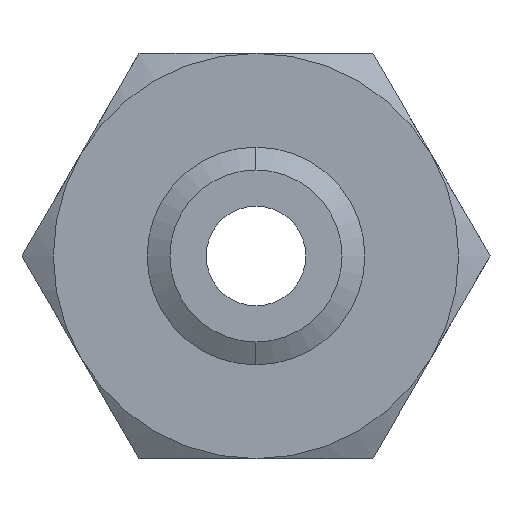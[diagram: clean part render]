
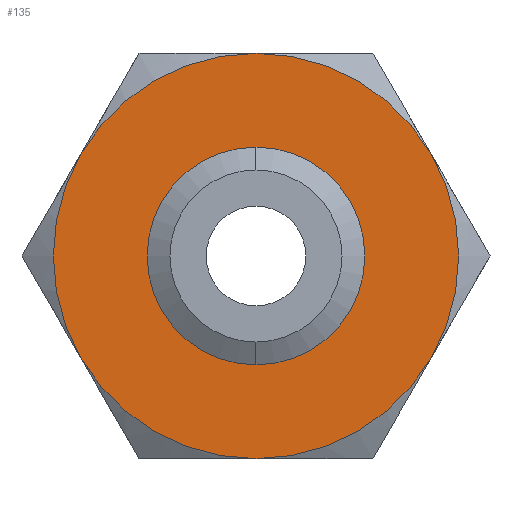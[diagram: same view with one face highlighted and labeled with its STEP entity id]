
A CAD part, front view. The second image highlights one B-rep face of the part: STEP entity #135.
In plain terms, the highlighted planar face has unit normal (0, -1, 0).
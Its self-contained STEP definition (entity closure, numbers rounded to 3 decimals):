
#109 = ORIENTED_EDGE ( 'NONE', *, *, #133, .F. ) ;
#110 = ORIENTED_EDGE ( 'NONE', *, *, #440, .F. ) ;
#112 = EDGE_LOOP ( 'NONE', ( #109, #125, #134, #130, #122, #110 ) ) ;
#117 = VERTEX_POINT ( 'NONE', #680 ) ;
#118 = EDGE_CURVE ( 'NONE', #117, #123, #666, .T. ) ;
#122 = ORIENTED_EDGE ( 'NONE', *, *, #118, .F. ) ;
#123 = VERTEX_POINT ( 'NONE', #661 ) ;
#124 = EDGE_CURVE ( 'NONE', #136, #127, #660, .T. ) ;
#125 = ORIENTED_EDGE ( 'NONE', *, *, #124, .F. ) ;
#126 = VERTEX_POINT ( 'NONE', #655 ) ;
#127 = VERTEX_POINT ( 'NONE', #654 ) ;
#129 = EDGE_CURVE ( 'NONE', #123, #132, #647, .T. ) ;
#130 = ORIENTED_EDGE ( 'NONE', *, *, #129, .F. ) ;
#131 = EDGE_CURVE ( 'NONE', #132, #136, #704, .T. ) ;
#132 = VERTEX_POINT ( 'NONE', #700 ) ;
#133 = EDGE_CURVE ( 'NONE', #127, #126, #698, .T. ) ;
#134 = ORIENTED_EDGE ( 'NONE', *, *, #131, .F. ) ;
#135 = ADVANCED_FACE ( 'NONE', ( #699, #693 ), #692, .F. ) ;
#136 = VERTEX_POINT ( 'NONE', #687 ) ;
#137 = ORIENTED_EDGE ( 'NONE', *, *, #296, .F. ) ;
#296 = EDGE_CURVE ( 'NONE', #297, #298, #1066, .T. ) ;
#297 = VERTEX_POINT ( 'NONE', #1061 ) ;
#298 = VERTEX_POINT ( 'NONE', #1060 ) ;
#440 = EDGE_CURVE ( 'NONE', #126, #117, #1359, .T. ) ;
#647 = CIRCLE ( 'NONE', #708, 32.5 ) ;
#648 = CARTESIAN_POINT ( 'NONE',  ( 0., 0., 0. ) ) ;
#654 = CARTESIAN_POINT ( 'NONE',  ( 0., 0., 32.5 ) ) ;
#655 = CARTESIAN_POINT ( 'NONE',  ( 28.146, 0., 16.25 ) ) ;
#656 = DIRECTION ( 'NONE',  ( 0., 0., 1. ) ) ;
#657 = DIRECTION ( 'NONE',  ( 0., 1., 0. ) ) ;
#658 = CARTESIAN_POINT ( 'NONE',  ( 0., 0., 0. ) ) ;
#659 = AXIS2_PLACEMENT_3D ( 'NONE', #658, #657, #656 ) ;
#660 = CIRCLE ( 'NONE', #659, 32.5 ) ;
#661 = CARTESIAN_POINT ( 'NONE',  ( 0., 0., -32.5 ) ) ;
#662 = DIRECTION ( 'NONE',  ( 0., 0., 1. ) ) ;
#663 = DIRECTION ( 'NONE',  ( 0., 1., 0. ) ) ;
#664 = CARTESIAN_POINT ( 'NONE',  ( 0., 0., 0. ) ) ;
#665 = AXIS2_PLACEMENT_3D ( 'NONE', #664, #663, #662 ) ;
#666 = CIRCLE ( 'NONE', #665, 32.5 ) ;
#680 = CARTESIAN_POINT ( 'NONE',  ( 28.146, 0., -16.25 ) ) ;
#687 = CARTESIAN_POINT ( 'NONE',  ( -28.146, 0., 16.25 ) ) ;
#688 = DIRECTION ( 'NONE',  ( 0., 0., 1. ) ) ;
#689 = DIRECTION ( 'NONE',  ( 0., 1., 0. ) ) ;
#690 = CARTESIAN_POINT ( 'NONE',  ( 18.764, 0., -32.5 ) ) ;
#691 = AXIS2_PLACEMENT_3D ( 'NONE', #690, #689, #688 ) ;
#692 = PLANE ( 'NONE',  #691 ) ;
#693 = FACE_BOUND ( 'NONE', #1964, .T. ) ;
#694 = DIRECTION ( 'NONE',  ( 0., 0., 1. ) ) ;
#695 = DIRECTION ( 'NONE',  ( 0., 1., 0. ) ) ;
#696 = CARTESIAN_POINT ( 'NONE',  ( 0., 0., 0. ) ) ;
#697 = AXIS2_PLACEMENT_3D ( 'NONE', #696, #695, #694 ) ;
#698 = CIRCLE ( 'NONE', #697, 32.5 ) ;
#699 = FACE_OUTER_BOUND ( 'NONE', #112, .T. ) ;
#700 = CARTESIAN_POINT ( 'NONE',  ( -28.146, 0., -16.25 ) ) ;
#701 = DIRECTION ( 'NONE',  ( 0., 0., 1. ) ) ;
#702 = DIRECTION ( 'NONE',  ( 0., 1., 0. ) ) ;
#703 = AXIS2_PLACEMENT_3D ( 'NONE', #648, #702, #701 ) ;
#704 = CIRCLE ( 'NONE', #703, 32.5 ) ;
#705 = DIRECTION ( 'NONE',  ( 0., 0., 1. ) ) ;
#706 = DIRECTION ( 'NONE',  ( 0., 1., 0. ) ) ;
#707 = CARTESIAN_POINT ( 'NONE',  ( 0., 0., 0. ) ) ;
#708 = AXIS2_PLACEMENT_3D ( 'NONE', #707, #706, #705 ) ;
#1060 = CARTESIAN_POINT ( 'NONE',  ( 0., 0., 13.802 ) ) ;
#1061 = CARTESIAN_POINT ( 'NONE',  ( 0., 0., -13.802 ) ) ;
#1062 = DIRECTION ( 'NONE',  ( 0., 0., -1. ) ) ;
#1063 = DIRECTION ( 'NONE',  ( 0., -1., 0. ) ) ;
#1064 = CARTESIAN_POINT ( 'NONE',  ( 0., 0., 0. ) ) ;
#1065 = AXIS2_PLACEMENT_3D ( 'NONE', #1064, #1063, #1062 ) ;
#1066 = CIRCLE ( 'NONE', #1065, 13.802 ) ;
#1355 = DIRECTION ( 'NONE',  ( 0., 0., 1. ) ) ;
#1356 = DIRECTION ( 'NONE',  ( 0., 1., 0. ) ) ;
#1357 = CARTESIAN_POINT ( 'NONE',  ( 0., 0., 0. ) ) ;
#1358 = AXIS2_PLACEMENT_3D ( 'NONE', #1357, #1356, #1355 ) ;
#1359 = CIRCLE ( 'NONE', #1358, 32.5 ) ;
#1725 = DIRECTION ( 'NONE',  ( 0., 0., -1. ) ) ;
#1726 = DIRECTION ( 'NONE',  ( 0., -1., 0. ) ) ;
#1727 = CARTESIAN_POINT ( 'NONE',  ( 0., 0., 0. ) ) ;
#1728 = AXIS2_PLACEMENT_3D ( 'NONE', #1727, #1726, #1725 ) ;
#1729 = CIRCLE ( 'NONE', #1728, 13.802 ) ;
#1964 = EDGE_LOOP ( 'NONE', ( #137, #2094 ) ) ;
#2087 = EDGE_CURVE ( 'NONE', #298, #297, #1729, .T. ) ;
#2094 = ORIENTED_EDGE ( 'NONE', *, *, #2087, .F. ) ;
